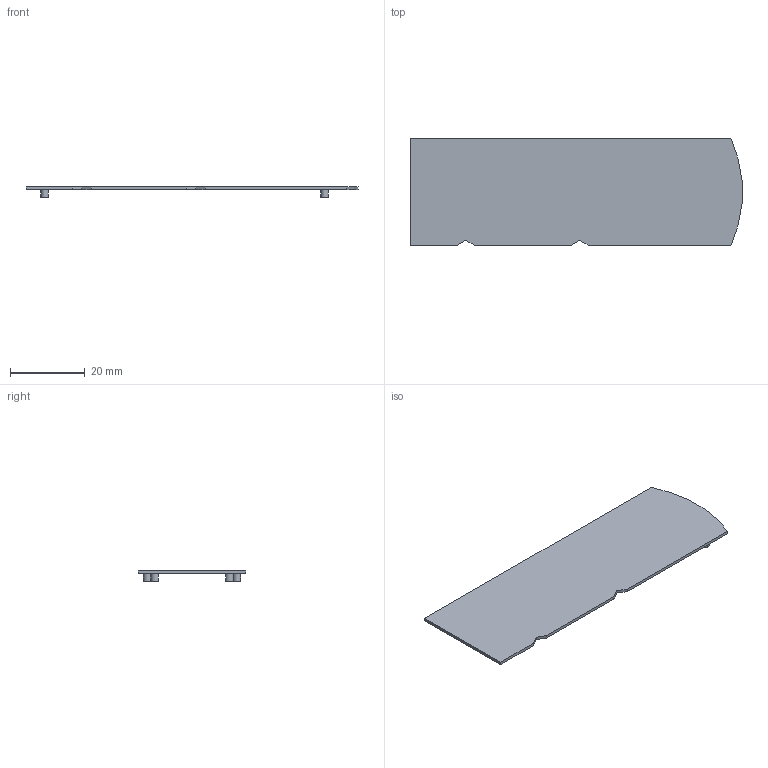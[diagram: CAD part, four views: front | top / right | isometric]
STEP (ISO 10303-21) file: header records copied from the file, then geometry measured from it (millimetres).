
FILE_DESCRIPTION(/* description */ (''),/* implementation_level */ '2;1');
FILE_NAME(/* name */ '盖板.stp',/* time_stamp */ '2026-05-25T15:17:47+08:00',/* author */ (''),/* organization */ (''),/* preprocessor_version */ 'ST-DEVELOPER v20',/* originating_system */ 'SIEMENS PLM Software NX2412.1700',/* authorisation */ '');
FILE_SCHEMA (('AUTOMOTIVE_DESIGN { 1 0 10303 214 3 1 1 1 }'));
Length unit declared in the file: millimetre
Products named in the file (1): 盖板
Bounding box: 88.92 x 28.8 x 2.8 mm (x, y, z)
Volume: 2047.4 mm3; surface area: 5291.7 mm2
Topology: 1 solids, 1 shells, 20 faces, 42 edges, 29 vertices
Faces by surface type: plane 15, cylinder 5
Full cylindrical faces by diameter (mm): 2 x4
Entity records: 549 total; most frequent: DIRECTION 90, CARTESIAN_POINT 88, ORIENTED_EDGE 76, EDGE_CURVE 38, AXIS2_PLACEMENT_3D 31, EDGE_LOOP 28, VERTEX_POINT 28, LINE 28
